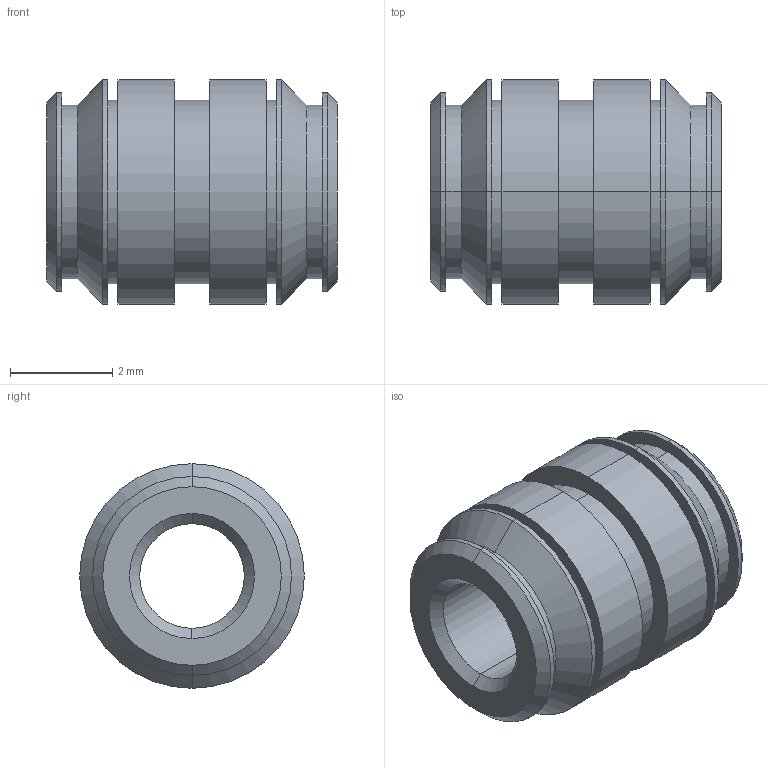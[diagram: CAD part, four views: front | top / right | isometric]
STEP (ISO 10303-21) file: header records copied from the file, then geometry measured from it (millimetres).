
FILE_DESCRIPTION (( 'STEP AP203' ), '1' );
FILE_NAME ('FSUK-DUO-M02.5-S.STEP', '2021-04-15T09:10:55', ( '' ), ( '' ), 'SwSTEP 2.0', 'SolidWorks 2021', '' );
FILE_SCHEMA (( 'CONFIG_CONTROL_DESIGN' ));
Length unit declared in the file: millimetre
Products named in the file (1): FSUK-DUO-M02.5-S
Bounding box: 5.7 x 4.4 x 4.4 mm (x, y, z)
Volume: 52.8 mm3; surface area: 162.2 mm2
Topology: 1 solids, 1 shells, 46 faces, 92 edges, 56 vertices
Faces by surface type: cylinder 24, cone 12, plane 10
Entity records: 1285 total; most frequent: DIRECTION 242, CARTESIAN_POINT 195, ORIENTED_EDGE 184, AXIS2_PLACEMENT_3D 103, EDGE_CURVE 92, EDGE_LOOP 56, VERTEX_POINT 56, CIRCLE 56
